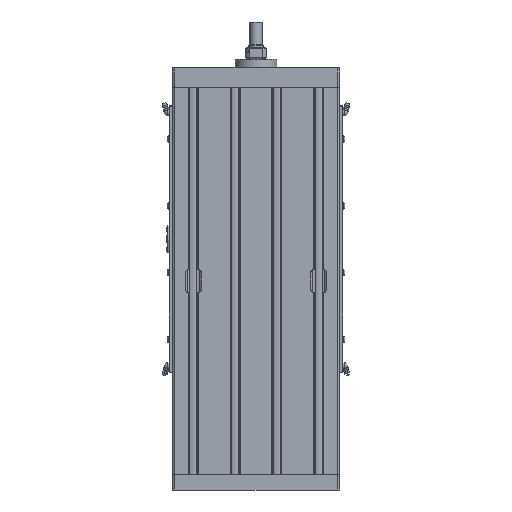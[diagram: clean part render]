
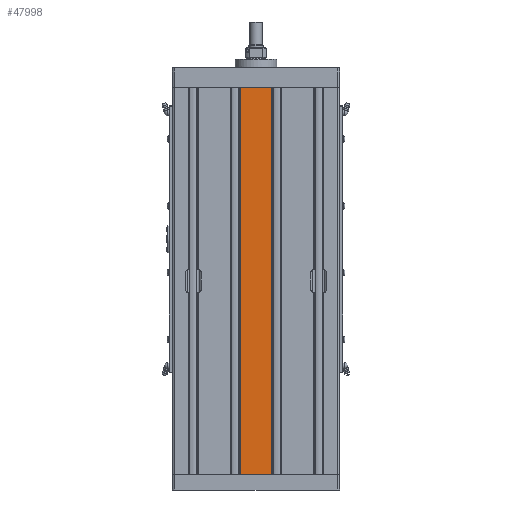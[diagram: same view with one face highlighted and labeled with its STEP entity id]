
A CAD part, front view. The second image highlights one B-rep face of the part: STEP entity #47998.
In plain terms, the highlighted planar face has unit normal (0, -1, 0).
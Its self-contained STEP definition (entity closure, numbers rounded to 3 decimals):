
#1840=PLANE('',#51327);
#3495=FACE_OUTER_BOUND('',#6240,.T.);
#6240=EDGE_LOOP('',(#32826,#32827,#32828,#32829));
#9520=LINE('',#70068,#13824);
#9658=LINE('',#70501,#13962);
#9835=LINE('',#70957,#14139);
#9836=LINE('',#70959,#14140);
#13824=VECTOR('',#56283,10.);
#13962=VECTOR('',#56587,10.);
#14139=VECTOR('',#57030,10.);
#14140=VECTOR('',#57033,10.);
#20160=VERTEX_POINT('',#70065);
#20161=VERTEX_POINT('',#70067);
#20372=VERTEX_POINT('',#70498);
#20373=VERTEX_POINT('',#70500);
#24900=EDGE_CURVE('',#20160,#20161,#9520,.T.);
#25118=EDGE_CURVE('',#20372,#20373,#9658,.T.);
#25347=EDGE_CURVE('',#20160,#20373,#9835,.T.);
#25348=EDGE_CURVE('',#20161,#20372,#9836,.T.);
#32826=ORIENTED_EDGE('',*,*,#25347,.T.);
#32827=ORIENTED_EDGE('',*,*,#25118,.F.);
#32828=ORIENTED_EDGE('',*,*,#25348,.F.);
#32829=ORIENTED_EDGE('',*,*,#24900,.F.);
#47998=ADVANCED_FACE('',(#3495),#1840,.T.);
#51327=AXIS2_PLACEMENT_3D('',#70958,#57031,#57032);
#56283=DIRECTION('',(-1.,0.,0.));
#56587=DIRECTION('',(1.,0.,0.));
#57030=DIRECTION('',(0.,0.,1.));
#57031=DIRECTION('center_axis',(0.,-1.,0.));
#57032=DIRECTION('ref_axis',(1.,0.,0.));
#57033=DIRECTION('',(0.,0.,1.));
#70065=CARTESIAN_POINT('',(18.9,-50.,-282.));
#70067=CARTESIAN_POINT('',(-18.9,-50.,-282.));
#70068=CARTESIAN_POINT('',(18.9,-50.,-282.));
#70498=CARTESIAN_POINT('',(-18.9,-50.,182.));
#70500=CARTESIAN_POINT('',(18.9,-50.,182.));
#70501=CARTESIAN_POINT('',(-18.9,-50.,182.));
#70957=CARTESIAN_POINT('',(18.9,-50.,0.));
#70958=CARTESIAN_POINT('Origin',(-18.9,-50.,0.));
#70959=CARTESIAN_POINT('',(-18.9,-50.,0.));
